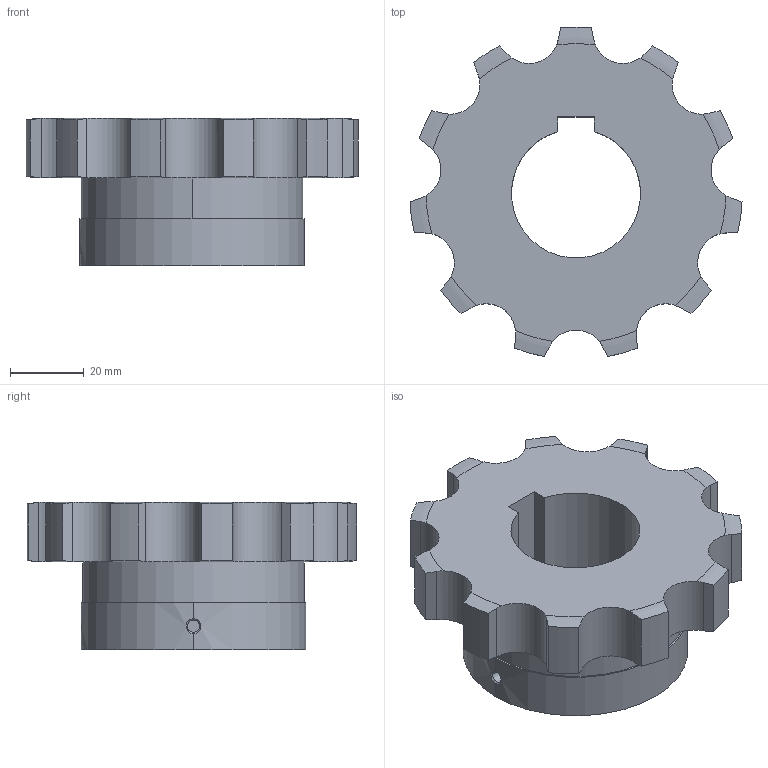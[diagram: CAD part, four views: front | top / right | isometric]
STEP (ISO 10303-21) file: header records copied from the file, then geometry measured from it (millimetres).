
FILE_DESCRIPTION((''),'2;1');
FILE_NAME('510-501-3511_PRT','2021-02-13T',('Brieden'),('Brieden'),'PRO/ENGINEER BY PARAMETRIC TECHNOLOGY CORPORATION, 2010160','PRO/ENGINEER BY PARAMETRIC TECHNOLOGY CORPORATION, 2010160','');
FILE_SCHEMA(('AUTOMOTIVE_DESIGN { 1 0 10303 214 1 1 1 1 }'));
Length unit declared in the file: millimetre
Products named in the file (1): 510-501-3511_PRT
Bounding box: 90.03 x 89.28 x 40 mm (x, y, z)
Volume: 114324.8 mm3; surface area: 23876.9 mm2
Topology: 1 solids, 1 shells, 88 faces, 249 edges, 164 vertices
Faces by surface type: cylinder 53, torus 22, plane 7, bspline 6
Entity records: 4398 total; most frequent: CARTESIAN_POINT 1432, ORIENTED_EDGE 498, DIRECTION 389, PRESENTATION_STYLE_ASSIGNMENT 250, STYLED_ITEM 250, CURVE_STYLE 249, EDGE_CURVE 249, VERTEX_POINT 164
